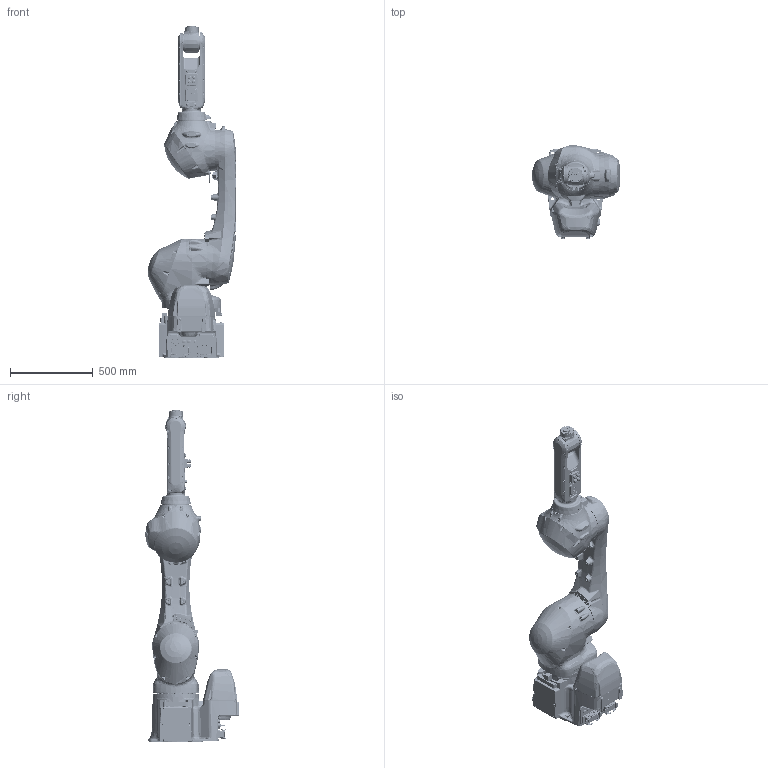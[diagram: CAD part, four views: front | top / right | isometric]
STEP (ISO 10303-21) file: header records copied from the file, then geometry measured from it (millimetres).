
FILE_DESCRIPTION(('CATIA V5 STEP Exchange','CAx-IF Rec.Pracs.--- Composite Materials ---3.4---2017-06-13'),'2;1');
FILE_NAME('D:\モデリング\☆☆☆STEP\RS\RS025S-AC01\RS025S-AC01.stp','2025-08-25T07:12:14+00:00',('none'),('none'),'CATIA Version 5-6 Release 2020 SP4 HF11','CATIA V5 STEP AP203 v2','none');
FILE_SCHEMA(('CONFIG_CONTROL_DESIGN'));
Length unit declared in the file: millimetre
Products named in the file (1): RS025S-AC01
Assembly tree (7 placements, depth 2):
  RS025S-AC01
    #57
    #105957
    #135876
    #229926
    #265724
    #329960
    #349787
Bounding box: 532.09 x 562.96 x 2005 mm (x, y, z)
Volume: 127246579.7 mm3; surface area: 3238301.6 mm2
Topology: 8 solids, 8 shells, 7150 faces, 17950 edges, 10941 vertices
Faces by surface type: cylinder 2070, plane 2018, bspline 1724, cone 675, torus 441, revolution 134, sphere 63, extrusion 25
Entity records: 351182 total; most frequent: CARTESIAN_POINT 208694, ORIENTED_EDGE 35288, DIRECTION 18241, EDGE_CURVE 17644, VERTEX_POINT 10941, AXIS2_PLACEMENT_3D 8624, EDGE_LOOP 7713, B_SPLINE_CURVE_WITH_KNOTS 7399
